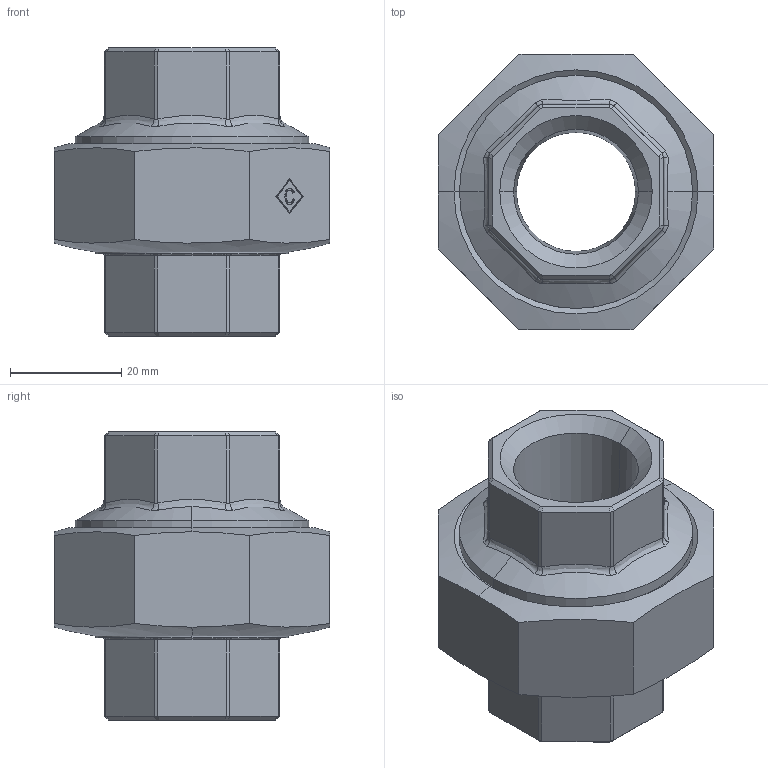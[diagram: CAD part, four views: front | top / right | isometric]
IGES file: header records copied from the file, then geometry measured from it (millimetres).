
Global section: file name: No Iges File Name specified; native system: AutoDesk Inventor R12.0; preprocessor: AutoDesk Inventor Iges Exporter R12.0; date: 20090917.161221; units: millimetre
Bounding box: 49.53 x 49.53 x 51.79 mm (x, y, z)
Volume: 41989 mm3; surface area: 17127.1 mm2
Topology: 1 solids, 1 shells, 168 faces, 405 edges, 249 vertices
Faces by surface type: plane 61, bspline 37, revolution 30, cylinder 22, cone 18
